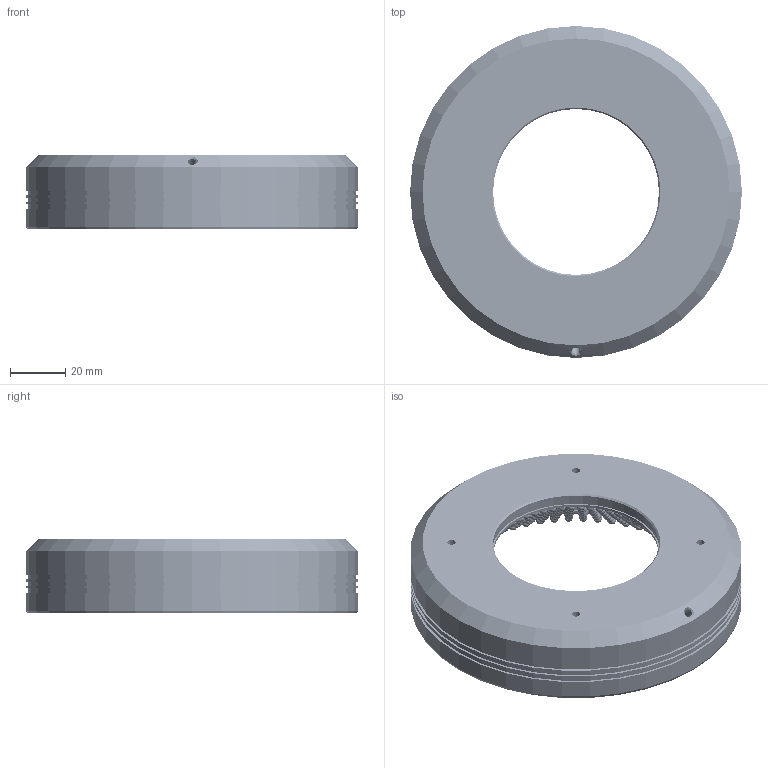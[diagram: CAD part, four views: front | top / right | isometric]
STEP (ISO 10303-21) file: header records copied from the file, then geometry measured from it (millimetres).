
FILE_DESCRIPTION((''),'2;1');
FILE_NAME('D:\上海创波-20181114\2-三维图纸\1-常用光源\WLDR系列\WLDR1系列-xxAGxx\WLDR-45AG120-.stp','2020-02-06T21:32:53',('Administrator'),(''),'Autodesk Inventor 2010','Autodesk Inventor 2010','');
FILE_SCHEMA(('AUTOMOTIVE_DESIGN { 1 0 10303 214 1 1 1 1 }'));
Length unit declared in the file: millimetre
Products named in the file (1): 零件11
Bounding box: 120 x 120 x 27 mm (x, y, z)
Volume: 99361.4 mm3; surface area: 78906.1 mm2
Topology: 241 solids, 241 shells, 2588 faces, 6546 edges, 4078 vertices
Faces by surface type: plane 1284, cylinder 871, sphere 420, cone 12, bspline 1
Full cylindrical faces by diameter (mm): 1 x7, 2 x4, 3 x425, 60 x2, 61 x1, 67 x1, 70 x1, 102 x1, 111 x1, 115 x1, 118.5 x3, 120 x4
Entity records: 70069 total; most frequent: CARTESIAN_POINT 13681, DIRECTION 11376, ORIENTED_EDGE 9536, EDGE_CURVE 4768, AXIS2_PLACEMENT_3D 4638, EDGE_LOOP 3390, VERTEX_POINT 3198, STYLED_ITEM 2829
